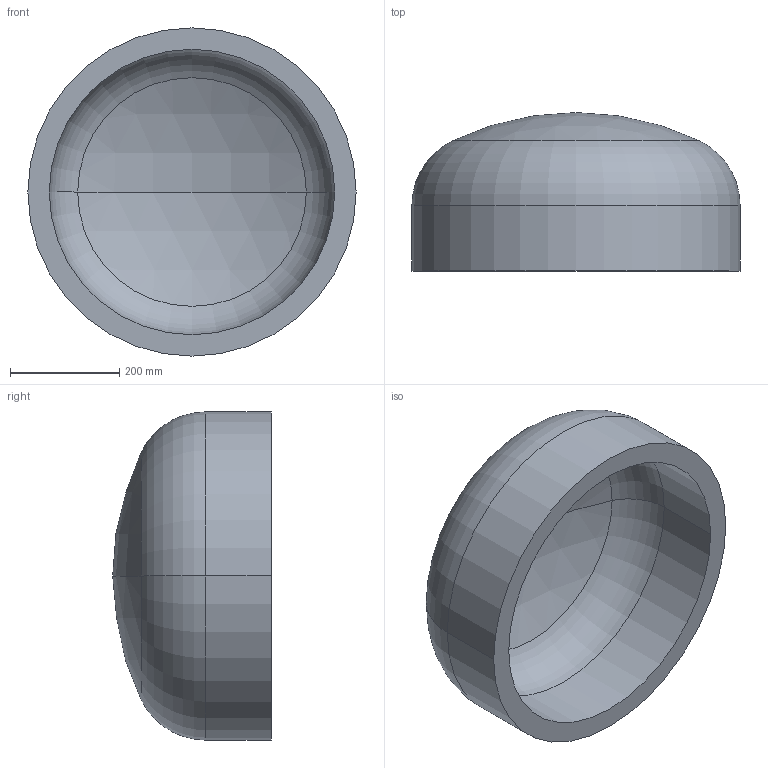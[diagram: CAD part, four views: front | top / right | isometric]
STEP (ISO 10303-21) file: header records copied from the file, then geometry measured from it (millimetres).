
FILE_DESCRIPTION (( 'STEP AP203' ), '1' );
FILE_NAME ('DIN 28013 Korbbogenform_-_Boden DIN 28013 - 600 x 120 - I - s=39.step', '2016-07-01T08:00:19', ( '' ), ( '' ), 'SwSTEP 2.0', 'SolidWorks 2013', '' );
FILE_SCHEMA (( 'CONFIG_CONTROL_DESIGN' ));
Length unit declared in the file: millimetre
Products named in the file (1): DIN 28013 Korbbogenform_-_Boden DIN 28013 - 600 x 120 - I - s=39
Bounding box: 600 x 289.74 x 600 mm (x, y, z)
Volume: 22298010.7 mm3; surface area: 1215408 mm2
Topology: 1 solids, 1 shells, 13 faces, 24 edges, 14 vertices
Faces by surface type: torus 4, cylinder 4, sphere 4, plane 1
Entity records: 407 total; most frequent: DIRECTION 72, CARTESIAN_POINT 52, ORIENTED_EDGE 48, AXIS2_PLACEMENT_3D 34, EDGE_CURVE 24, CIRCLE 20, VERTEX_POINT 14, EDGE_LOOP 14
